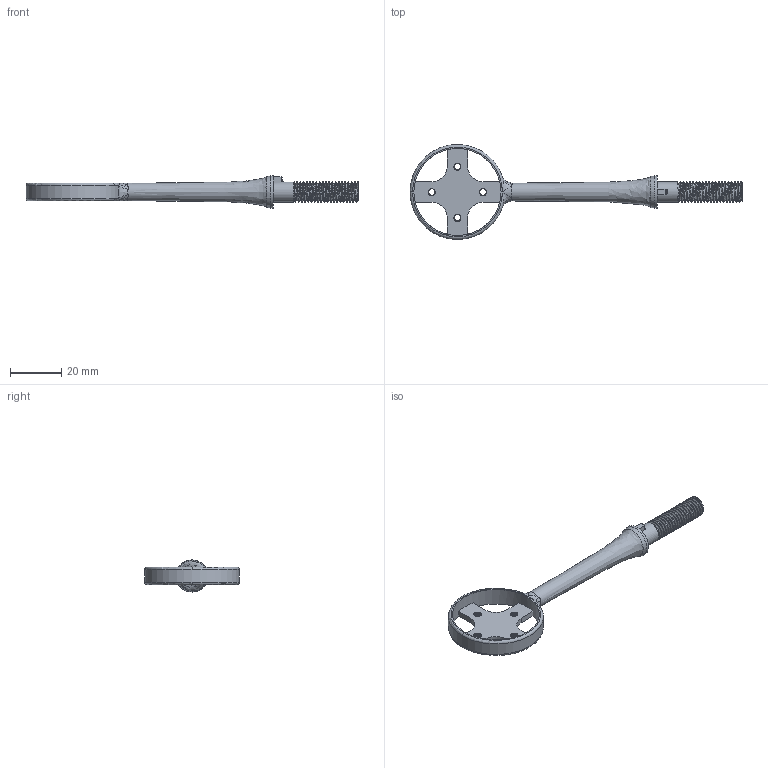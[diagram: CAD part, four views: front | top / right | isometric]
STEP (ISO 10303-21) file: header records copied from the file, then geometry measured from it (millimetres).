
FILE_DESCRIPTION(/* description */ (''),/* implementation_level */ '2;1');
FILE_NAME(/* name */ 'Quill Stem out-front Mount.step',/* time_stamp */ '2026-04-11T21:01:31-07:00',/* author */ (''),/* organization */ (''),/* preprocessor_version */ 'ST-DEVELOPER v20.1',/* originating_system */ 'Autodesk Translation Framework v14.24.0.0',/* authorisation */ '');
FILE_SCHEMA (('AUTOMOTIVE_DESIGN { 1 0 10303 214 3 1 1 }'));
Length unit declared in the file: millimetre
Products named in the file (1): Quill Stem out-front Mount
Bounding box: 129.5 x 36.96 x 12.5 mm (x, y, z)
Volume: 5526.7 mm3; surface area: 6845.3 mm2
Topology: 1 solids, 1 shells, 147 faces, 425 edges, 274 vertices
Faces by surface type: cylinder 99, bspline 24, plane 18, torus 5, sphere 1
Full cylindrical faces by diameter (mm): 2.529 x8, 4 x1, 6.446 x7, 7.866 x14, 12.5 x1, 34 x1
Entity records: 11243 total; most frequent: CARTESIAN_POINT 7793, ORIENTED_EDGE 840, DIRECTION 519, EDGE_CURVE 420, VERTEX_POINT 274, B_SPLINE_CURVE_WITH_KNOTS 222, AXIS2_PLACEMENT_3D 197, EDGE_LOOP 162
